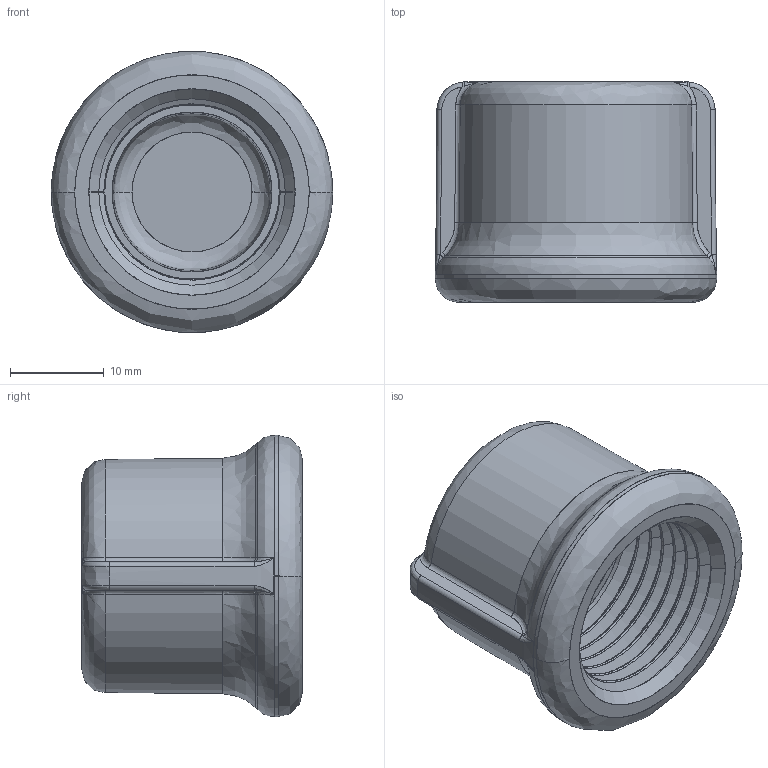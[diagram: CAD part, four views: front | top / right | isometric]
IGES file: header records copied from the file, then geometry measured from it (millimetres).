
Start section: SolidWorks IGES file using analytic representation for surfaces
Global section: file name: C:\Users\Joel Rosa\Desktop\Tubulação\12-42-XXX\12-42-004.IGS; native system: SolidWorks 2011; preprocessor: SolidWorks 2011; author: Joel Rosa; date: 131001.191531; units: millimetre
Bounding box: 30 x 23.5 x 30 mm (x, y, z)
Surface area: 4841.9 mm2 (no closed solid volume)
Topology: 0 solids, 0 shells, 240 faces, 2096 edges, 2088 vertices
Faces by surface type: bspline 196, revolution 44
